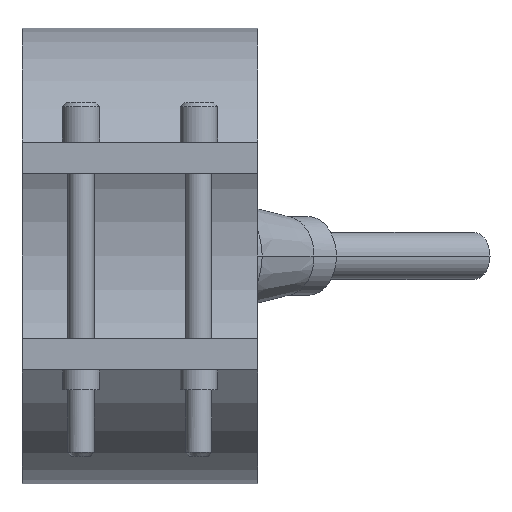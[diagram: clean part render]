
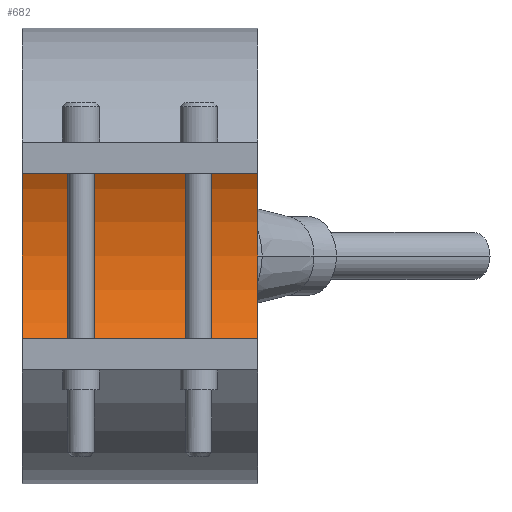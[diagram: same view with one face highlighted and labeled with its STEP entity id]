
A CAD part, front view. The second image highlights one B-rep face of the part: STEP entity #682.
In plain terms, the highlighted cylindrical face has radius 25 mm (diameter 50 mm), a partial arc.
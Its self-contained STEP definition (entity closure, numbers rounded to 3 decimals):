
#352=CARTESIAN_POINT('Vertex',(15.,0.,25.)) ;
#357=CARTESIAN_POINT('Axis2P3D Location',(15.,0.,0.)) ;
#361=CARTESIAN_POINT('Vertex',(15.,0.,-25.)) ;
#468=CARTESIAN_POINT('Vertex',(-15.,0.,-25.)) ;
#471=CARTESIAN_POINT('Axis2P3D Location',(-15.,0.,0.)) ;
#475=CARTESIAN_POINT('Vertex',(-15.,0.,25.)) ;
#654=CARTESIAN_POINT('Line Origine',(15.,0.,25.)) ;
#666=CARTESIAN_POINT('Axis2P3D Location',(15.,0.,0.)) ;
#671=CARTESIAN_POINT('Line Origine',(15.,0.,-25.)) ;
#358=DIRECTION('Axis2P3D Direction',(1.,0.,0.)) ;
#472=DIRECTION('Axis2P3D Direction',(1.,0.,0.)) ;
#655=DIRECTION('Vector Direction',(1.,0.,0.)) ;
#667=DIRECTION('Axis2P3D Direction',(1.,0.,-0.)) ;
#668=DIRECTION('Axis2P3D XDirection',(0.,0.,-1.)) ;
#672=DIRECTION('Vector Direction',(1.,0.,0.)) ;
#359=AXIS2_PLACEMENT_3D('Circle Axis2P3D',#357,#358,$) ;
#473=AXIS2_PLACEMENT_3D('Circle Axis2P3D',#471,#472,$) ;
#669=AXIS2_PLACEMENT_3D('Cylinder Axis2P3D',#666,#667,#668) ;
#677=ORIENTED_EDGE('',*,*,#363,.T.) ;
#678=ORIENTED_EDGE('',*,*,#658,.T.) ;
#679=ORIENTED_EDGE('',*,*,#477,.F.) ;
#680=ORIENTED_EDGE('',*,*,#675,.T.) ;
#656=VECTOR('Line Direction',#655,1.) ;
#673=VECTOR('Line Direction',#672,1.) ;
#682=ADVANCED_FACE('29050030',(#681),#670,.F.) ;
#360=CIRCLE('generated circle',#359,25.) ;
#474=CIRCLE('generated circle',#473,25.) ;
#670=CYLINDRICAL_SURFACE('generated cylinder',#669,25.) ;
#363=EDGE_CURVE('',#362,#353,#360,.T.) ;
#477=EDGE_CURVE('',#469,#476,#474,.T.) ;
#658=EDGE_CURVE('',#353,#476,#657,.F.) ;
#675=EDGE_CURVE('',#469,#362,#674,.T.) ;
#676=EDGE_LOOP('',(#677,#678,#679,#680)) ;
#681=FACE_OUTER_BOUND('',#676,.T.) ;
#657=LINE('Line',#654,#656) ;
#674=LINE('Line',#671,#673) ;
#353=VERTEX_POINT('',#352) ;
#362=VERTEX_POINT('',#361) ;
#469=VERTEX_POINT('',#468) ;
#476=VERTEX_POINT('',#475) ;
